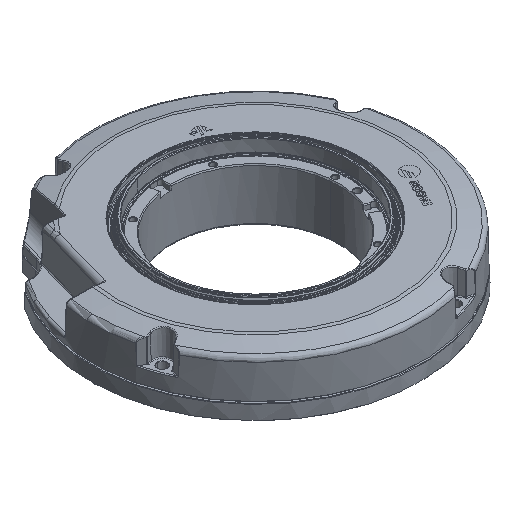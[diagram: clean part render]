
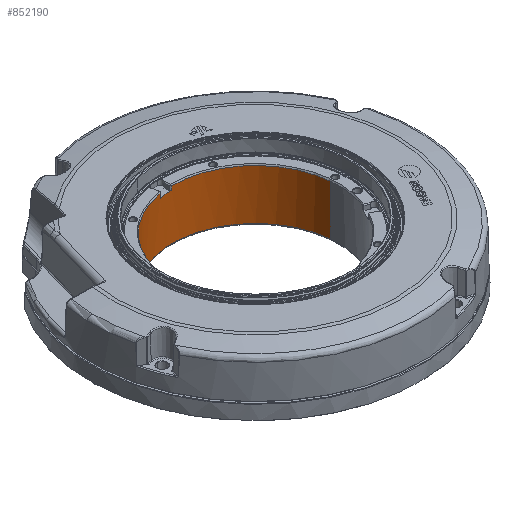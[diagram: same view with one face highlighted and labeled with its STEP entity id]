
A CAD part, isometric view. The second image highlights one B-rep face of the part: STEP entity #852190.
In plain terms, the highlighted cylindrical face has radius 50 mm (diameter 100 mm), a partial arc.
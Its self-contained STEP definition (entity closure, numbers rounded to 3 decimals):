
#809680=CARTESIAN_POINT('',(8.682,-49.24,
-10.75));
#809690=VERTEX_POINT('',#809680);
#809720=CARTESIAN_POINT('',(0.,0.,
-10.75));
#809730=DIRECTION('',(0.,0.,-1.));
#809740=DIRECTION('',(0.174,-0.985,
0.));
#809750=AXIS2_PLACEMENT_3D('',#809720,#809730,#809740);
#809760=CIRCLE('',#809750,50.);
#809770=CARTESIAN_POINT('',(-8.682,49.24,
-10.75));
#809780=VERTEX_POINT('',#809770);
#810030=CARTESIAN_POINT('',(0.,0.,
19.45));
#810040=DIRECTION('',(0.,0.,1.));
#810050=DIRECTION('',(-0.174,0.985,
0.));
#810060=AXIS2_PLACEMENT_3D('',#810030,#810040,#810050);
#810070=CIRCLE('',#810060,50.);
#810080=CARTESIAN_POINT('',(-8.682,49.24,
19.45));
#810090=VERTEX_POINT('',#810080);
#810140=CARTESIAN_POINT('',(-8.682,49.24,
16.95));
#810150=DIRECTION('',(0.,0.,-1.));
#810160=VECTOR('',#810150,1.);
#810170=LINE('',#810140,#810160);
#810180=EDGE_CURVE('',#810090,#809780,#810170,.T.);
#810210=CARTESIAN_POINT('',(8.682,-49.24,
16.95));
#810220=DIRECTION('',(0.,0.,-1.));
#810230=VECTOR('',#810220,1.);
#810240=LINE('',#810210,#810230);
#810250=CARTESIAN_POINT('',(8.682,-49.24,
19.45));
#810260=VERTEX_POINT('',#810250);
#810270=EDGE_CURVE('',#810260,#809690,#810240,.T.);
#816410=CARTESIAN_POINT('',(48.418,12.477,
17.1));
#816420=VERTEX_POINT('',#816410);
#816450=CARTESIAN_POINT('',(48.418,12.477,
16.95));
#816460=DIRECTION('',(0.,0.,-1.));
#816470=VECTOR('',#816460,1.);
#816480=LINE('',#816450,#816470);
#816490=CARTESIAN_POINT('',(48.418,12.477,
19.45));
#816500=VERTEX_POINT('',#816490);
#816510=EDGE_CURVE('',#816500,#816420,#816480,.T.);
#817210=CARTESIAN_POINT('',(49.766,4.836,
17.1));
#817220=VERTEX_POINT('',#817210);
#817250=CARTESIAN_POINT('',(0.,0.,
17.1));
#817260=DIRECTION('',(0.,0.,1.));
#817270=DIRECTION('',(0.174,-0.985,
0.));
#817280=AXIS2_PLACEMENT_3D('',#817250,#817260,#817270);
#817290=CIRCLE('',#817280,50.);
#817300=EDGE_CURVE('',#817220,#816420,#817290,.T.);
#832880=EDGE_CURVE('',#816500,#810090,#810070,.T.);
#834710=CARTESIAN_POINT('',(49.766,4.836,
19.45));
#834720=VERTEX_POINT('',#834710);
#834730=EDGE_CURVE('',#810260,#834720,#810070,.T.);
#835520=CARTESIAN_POINT('',(49.766,4.836,
16.95));
#835530=DIRECTION('',(0.,0.,-1.));
#835540=VECTOR('',#835530,1.);
#835550=LINE('',#835520,#835540);
#835560=EDGE_CURVE('',#834720,#817220,#835550,.T.);
#851920=EDGE_CURVE('',#809780,#809690,#809760,.T.);
#852040=CARTESIAN_POINT('',(0.,0.,
16.95));
#852050=DIRECTION('',(0.,0.,-1.));
#852060=DIRECTION('',(0.174,-0.985,
0.));
#852070=AXIS2_PLACEMENT_3D('',#852040,#852050,#852060);
#852080=CYLINDRICAL_SURFACE('',#852070,50.);
#852090=ORIENTED_EDGE('',*,*,#810180,.T.);
#852100=ORIENTED_EDGE('',*,*,#832880,.T.);
#852110=ORIENTED_EDGE('',*,*,#816510,.F.);
#852120=ORIENTED_EDGE('',*,*,#817300,.T.);
#852130=ORIENTED_EDGE('',*,*,#835560,.T.);
#852140=ORIENTED_EDGE('',*,*,#834730,.T.);
#852150=ORIENTED_EDGE('',*,*,#810270,.F.);
#852160=ORIENTED_EDGE('',*,*,#851920,.T.);
#852170=EDGE_LOOP('',(#852160,#852150,#852140,#852130,#852120,#852110,
#852100,#852090));
#852180=FACE_OUTER_BOUND('',#852170,.T.);
#852190=ADVANCED_FACE('',(#852180),#852080,.F.);
